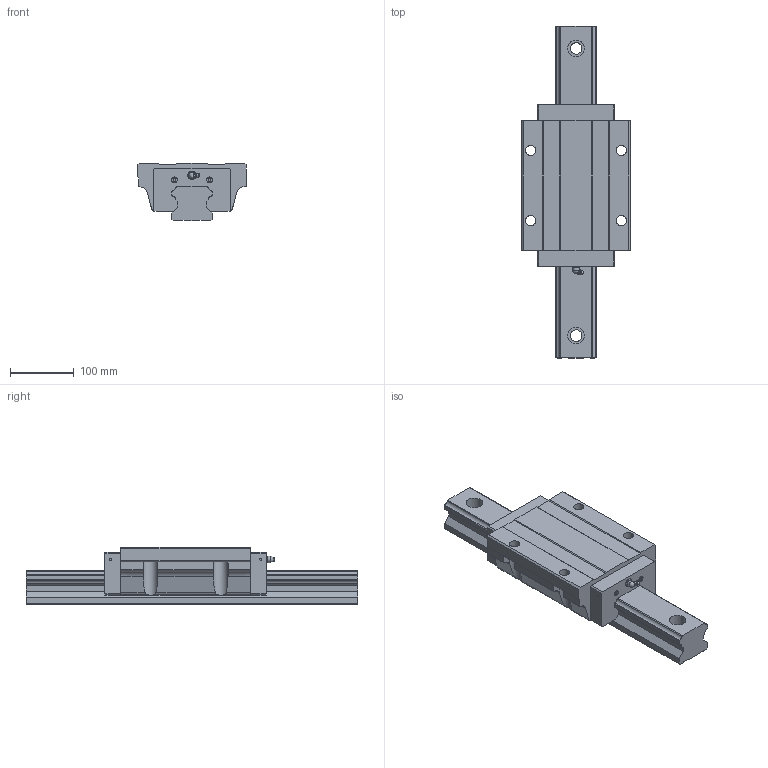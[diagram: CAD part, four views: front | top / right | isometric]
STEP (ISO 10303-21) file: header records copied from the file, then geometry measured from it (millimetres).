
FILE_DESCRIPTION(/* description */ (''),/* implementation_level */ '2;1');
FILE_NAME(/* name */ 'MSA65LE',/* time_stamp */ '2005-12-26T16:32:39+08:00',/* author */ (''),/* organization */ (''),/* preprocessor_version */ 'ST-DEVELOPER v9',/* originating_system */ 'UGS - NX 3.0',/* authorisation */ '');
FILE_SCHEMA (('CONFIG_CONTROL_DESIGN'));
Length unit declared in the file: millimetre
Products named in the file (1): kevi37F33h4u
Bounding box: 170 x 520 x 90 mm (x, y, z)
Volume: 3561858.5 mm3; surface area: 306182.8 mm2
Topology: 3 solids, 3 shells, 259 faces, 684 edges, 448 vertices
Faces by surface type: plane 163, cylinder 85, torus 7, sphere 2, cone 1, bspline 1
Full cylindrical faces by diameter (mm): 3.3 x4, 4.5 x4, 9 x4, 10 x1, 13 x2, 16 x4, 18 x4, 26 x4
Entity records: 8057 total; most frequent: CARTESIAN_POINT 1600, DIRECTION 1326, ORIENTED_EDGE 1284, EDGE_CURVE 642, AXIS2_PLACEMENT_3D 460, VERTEX_POINT 438, LINE 406, VECTOR 406
